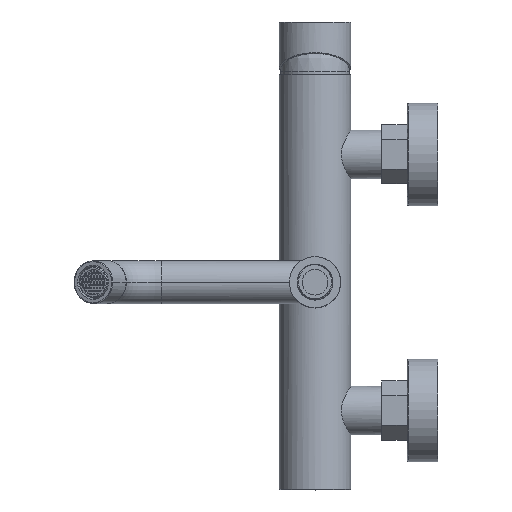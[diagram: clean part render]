
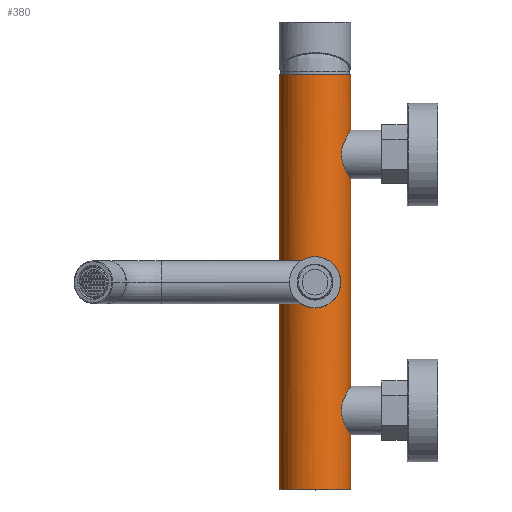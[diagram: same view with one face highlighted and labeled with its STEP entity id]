
A CAD part, top view. The second image highlights one B-rep face of the part: STEP entity #380.
In plain terms, the highlighted cylindrical face has radius 21 mm (diameter 42 mm), a partial arc.
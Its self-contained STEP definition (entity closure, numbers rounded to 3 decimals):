
#39=DIRECTION('',(0.,1.,0.));
#40=VECTOR('',#39,31.75);
#41=CARTESIAN_POINT('',(21.,-121.,0.));
#42=LINE('',#41,#40);
#43=CARTESIAN_POINT('',(21.,-89.25,0.));
#65=CARTESIAN_POINT('',(21.,-60.75,0.));
#67=DIRECTION('',(0.,1.,0.));
#68=VECTOR('',#67,121.5);
#69=CARTESIAN_POINT('',(21.,-60.75,0.));
#70=LINE('',#69,#68);
#71=CARTESIAN_POINT('',(21.,60.75,0.));
#93=CARTESIAN_POINT('',(21.,89.25,0.));
#95=DIRECTION('',(0.,1.,0.));
#96=VECTOR('',#95,32.25);
#97=CARTESIAN_POINT('',(21.,89.25,0.));
#98=LINE('',#97,#96);
#99=CARTESIAN_POINT('',(0.,15.,21.));
#100=CARTESIAN_POINT('',(-0.957,15.,21.));
#101=CARTESIAN_POINT('',(-2.867,14.822,20.872));
#102=CARTESIAN_POINT('',(-5.764,13.956,20.262));
#103=CARTESIAN_POINT('',(-8.35,12.571,19.327));
#104=CARTESIAN_POINT('',(-10.497,10.817,18.23));
#105=CARTESIAN_POINT('',(-12.113,8.969,17.187));
#106=CARTESIAN_POINT('',(-13.543,6.645,16.078));
#107=CARTESIAN_POINT('',(-14.547,4.025,15.156));
#108=CARTESIAN_POINT('',(-15.031,1.175,14.666));
#109=CARTESIAN_POINT('',(-15.022,-1.293,14.675));
#110=CARTESIAN_POINT('',(-14.512,-4.151,15.191));
#111=CARTESIAN_POINT('',(-13.488,-6.755,16.125));
#112=CARTESIAN_POINT('',(-12.048,-9.055,17.233));
#113=CARTESIAN_POINT('',(-10.44,-10.869,18.262));
#114=CARTESIAN_POINT('',(-8.316,-12.591,19.34));
#115=CARTESIAN_POINT('',(-5.754,-13.959,20.264));
#116=CARTESIAN_POINT('',(-2.865,-14.823,20.873));
#117=CARTESIAN_POINT('',(-0.957,-15.,21.));
#118=CARTESIAN_POINT('',(0.,-15.,21.));
#120=CARTESIAN_POINT('',(0.,-15.,21.));
#121=CARTESIAN_POINT('',(0.908,-15.,21.));
#122=CARTESIAN_POINT('',(2.719,-14.841,20.886));
#123=CARTESIAN_POINT('',(5.479,-14.058,20.333));
#124=CARTESIAN_POINT('',(7.907,-12.84,19.506));
#125=CARTESIAN_POINT('',(10.046,-11.241,18.486));
#126=CARTESIAN_POINT('',(11.802,-9.376,17.405));
#127=CARTESIAN_POINT('',(13.245,-7.201,16.323));
#128=CARTESIAN_POINT('',(14.286,-4.813,15.405));
#129=CARTESIAN_POINT('',(14.886,-2.329,14.815));
#130=CARTESIAN_POINT('',(15.062,0.054,14.633));
#131=CARTESIAN_POINT('',(14.867,2.455,14.835));
#132=CARTESIAN_POINT('',(14.244,4.934,15.445));
#133=CARTESIAN_POINT('',(13.184,7.311,16.373));
#134=CARTESIAN_POINT('',(11.74,9.451,17.447));
#135=CARTESIAN_POINT('',(9.994,11.284,18.513));
#136=CARTESIAN_POINT('',(7.879,12.855,19.516));
#137=CARTESIAN_POINT('',(5.469,14.06,20.335));
#138=CARTESIAN_POINT('',(2.72,14.841,20.885));
#139=CARTESIAN_POINT('',(0.91,15.,21.));
#140=CARTESIAN_POINT('',(0.,15.,21.));
#142=CARTESIAN_POINT('',(0.,-121.,0.));
#143=DIRECTION('',(0.,-1.,0.));
#144=DIRECTION('',(1.,0.,0.));
#145=AXIS2_PLACEMENT_3D('',#142,#143,#144);
#147=DIRECTION('',(0.,1.,0.));
#148=VECTOR('',#147,242.5);
#149=CARTESIAN_POINT('',(-21.,-121.,0.));
#150=LINE('',#149,#148);
#151=CARTESIAN_POINT('',(21.,89.25,0.));
#152=CARTESIAN_POINT('',(21.,89.25,0.66));
#153=CARTESIAN_POINT('',(20.94,89.162,1.998));
#154=CARTESIAN_POINT('',(20.624,88.693,4.14));
#155=CARTESIAN_POINT('',(20.132,87.942,6.076));
#156=CARTESIAN_POINT('',(19.525,86.98,7.793));
#157=CARTESIAN_POINT('',(18.863,85.872,9.278));
#158=CARTESIAN_POINT('',(18.049,84.41,10.784));
#159=CARTESIAN_POINT('',(17.084,82.427,12.249));
#160=CARTESIAN_POINT('',(16.189,80.104,13.395));
#161=CARTESIAN_POINT('',(15.552,77.476,14.115));
#162=CARTESIAN_POINT('',(15.363,75.006,14.316));
#163=CARTESIAN_POINT('',(15.548,72.557,14.12));
#164=CARTESIAN_POINT('',(16.182,69.914,13.403));
#165=CARTESIAN_POINT('',(17.078,67.588,12.258));
#166=CARTESIAN_POINT('',(18.045,65.597,10.791));
#167=CARTESIAN_POINT('',(18.865,64.124,9.273));
#168=CARTESIAN_POINT('',(19.524,63.022,7.794));
#169=CARTESIAN_POINT('',(20.131,62.059,6.079));
#170=CARTESIAN_POINT('',(20.624,61.308,4.141));
#171=CARTESIAN_POINT('',(20.94,60.838,1.998));
#172=CARTESIAN_POINT('',(21.,60.75,0.66));
#173=CARTESIAN_POINT('',(21.,60.75,0.));
#175=CARTESIAN_POINT('',(21.,-60.75,0.));
#176=CARTESIAN_POINT('',(21.,-60.75,0.66));
#177=CARTESIAN_POINT('',(20.94,-60.838,1.998));
#178=CARTESIAN_POINT('',(20.624,-61.307,4.14));
#179=CARTESIAN_POINT('',(20.132,-62.058,6.076));
#180=CARTESIAN_POINT('',(19.525,-63.02,7.793));
#181=CARTESIAN_POINT('',(18.863,-64.128,9.278));
#182=CARTESIAN_POINT('',(18.049,-65.59,10.784));
#183=CARTESIAN_POINT('',(17.084,-67.573,12.249));
#184=CARTESIAN_POINT('',(16.189,-69.896,13.395));
#185=CARTESIAN_POINT('',(15.552,-72.524,14.115));
#186=CARTESIAN_POINT('',(15.363,-74.994,14.316));
#187=CARTESIAN_POINT('',(15.548,-77.443,14.12));
#188=CARTESIAN_POINT('',(16.182,-80.086,13.403));
#189=CARTESIAN_POINT('',(17.078,-82.412,12.258));
#190=CARTESIAN_POINT('',(18.045,-84.403,10.791));
#191=CARTESIAN_POINT('',(18.865,-85.876,9.273));
#192=CARTESIAN_POINT('',(19.524,-86.978,7.794));
#193=CARTESIAN_POINT('',(20.131,-87.941,6.079));
#194=CARTESIAN_POINT('',(20.624,-88.692,4.141));
#195=CARTESIAN_POINT('',(20.94,-89.162,1.998));
#196=CARTESIAN_POINT('',(21.,-89.25,0.66));
#197=CARTESIAN_POINT('',(21.,-89.25,0.));
#222=CARTESIAN_POINT('',(0.,121.5,0.));
#223=DIRECTION('',(0.,1.,0.));
#224=DIRECTION('',(-1.,0.,0.));
#225=AXIS2_PLACEMENT_3D('',#222,#223,#224);
#263=CARTESIAN_POINT('',(21.,121.5,0.));
#264=CARTESIAN_POINT('',(-21.,121.5,0.));
#265=VERTEX_POINT('',#263);
#266=VERTEX_POINT('',#264);
#275=VERTEX_POINT('',#71);
#276=VERTEX_POINT('',#93);
#277=VERTEX_POINT('',#43);
#278=VERTEX_POINT('',#65);
#283=VERTEX_POINT('',#99);
#284=VERTEX_POINT('',#118);
#289=CARTESIAN_POINT('',(21.,-121.,0.));
#290=CARTESIAN_POINT('',(-21.,-121.,0.));
#291=VERTEX_POINT('',#289);
#292=VERTEX_POINT('',#290);
#356=CARTESIAN_POINT('',(0.,-121.5,0.));
#357=DIRECTION('',(0.,1.,0.));
#358=DIRECTION('',(1.,0.,0.));
#359=AXIS2_PLACEMENT_3D('',#356,#357,#358);
#360=CYLINDRICAL_SURFACE('',#359,21.);
#361=ORIENTED_EDGE('',*,*,#302,.T.);
#362=ORIENTED_EDGE('',*,*,#351,.T.);
#364=ORIENTED_EDGE('',*,*,#363,.T.);
#365=ORIENTED_EDGE('',*,*,#347,.F.);
#367=ORIENTED_EDGE('',*,*,#366,.T.);
#368=ORIENTED_EDGE('',*,*,#343,.F.);
#370=ORIENTED_EDGE('',*,*,#369,.T.);
#371=ORIENTED_EDGE('',*,*,#339,.F.);
#372=EDGE_LOOP('',(#361,#362,#364,#365,#367,#368,#370,#371));
#373=FACE_OUTER_BOUND('',#372,.F.);
#375=ORIENTED_EDGE('',*,*,#374,.T.);
#377=ORIENTED_EDGE('',*,*,#376,.T.);
#378=EDGE_LOOP('',(#375,#377));
#379=FACE_BOUND('',#378,.F.);
#119=B_SPLINE_CURVE_WITH_KNOTS('',3,(#99,#100,#101,#102,#103,#104,#105,#106,
#107,#108,#109,#110,#111,#112,#113,#114,#115,#116,#117,#118),.UNSPECIFIED.,.F.,
.F.,(4,1,1,1,1,1,1,1,1,1,1,1,1,1,1,1,1,4),(0.,0.059,
0.118,0.176,0.235,0.294,
0.353,0.412,0.471,0.529,
0.588,0.647,0.706,0.765,
0.824,0.882,0.941,1.),.UNSPECIFIED.);
#141=B_SPLINE_CURVE_WITH_KNOTS('',3,(#120,#121,#122,#123,#124,#125,#126,#127,
#128,#129,#130,#131,#132,#133,#134,#135,#136,#137,#138,#139,#140),.UNSPECIFIED.,
.F.,.F.,(4,1,1,1,1,1,1,1,1,1,1,1,1,1,1,1,1,1,4),(0.,0.056,
0.111,0.167,0.222,0.278,
0.333,0.389,0.444,0.5,0.556,
0.611,0.667,0.722,0.778,
0.833,0.889,0.944,1.),.UNSPECIFIED.);
#146=CIRCLE('',#145,21.);
#174=B_SPLINE_CURVE_WITH_KNOTS('',3,(#151,#152,#153,#154,#155,#156,#157,#158,
#159,#160,#161,#162,#163,#164,#165,#166,#167,#168,#169,#170,#171,#172,#173),
.UNSPECIFIED.,.F.,.F.,(4,1,1,1,1,1,1,1,1,1,1,1,1,1,1,1,1,1,1,1,4),(0.,0.05,
0.1,0.15,0.2,0.25,0.3,0.35,0.4,0.45,0.5,0.55,0.6,0.65,
0.7,0.75,0.8,0.85,0.9,0.95,1.),.UNSPECIFIED.);
#198=B_SPLINE_CURVE_WITH_KNOTS('',3,(#175,#176,#177,#178,#179,#180,#181,#182,
#183,#184,#185,#186,#187,#188,#189,#190,#191,#192,#193,#194,#195,#196,#197),
.UNSPECIFIED.,.F.,.F.,(4,1,1,1,1,1,1,1,1,1,1,1,1,1,1,1,1,1,1,1,4),(0.,0.05,
0.1,0.15,0.2,0.25,0.3,0.35,0.4,0.45,0.5,0.55,0.6,0.65,
0.7,0.75,0.8,0.85,0.9,0.95,1.),.UNSPECIFIED.);
#226=CIRCLE('',#225,21.);
#302=EDGE_CURVE('',#291,#292,#146,.T.);
#339=EDGE_CURVE('',#291,#277,#42,.T.);
#343=EDGE_CURVE('',#278,#275,#70,.T.);
#347=EDGE_CURVE('',#276,#265,#98,.T.);
#351=EDGE_CURVE('',#292,#266,#150,.T.);
#363=EDGE_CURVE('',#266,#265,#226,.T.);
#366=EDGE_CURVE('',#276,#275,#174,.T.);
#369=EDGE_CURVE('',#278,#277,#198,.T.);
#374=EDGE_CURVE('',#283,#284,#119,.T.);
#376=EDGE_CURVE('',#284,#283,#141,.T.);
#380=ADVANCED_FACE('',(#373,#379),#360,.T.);
